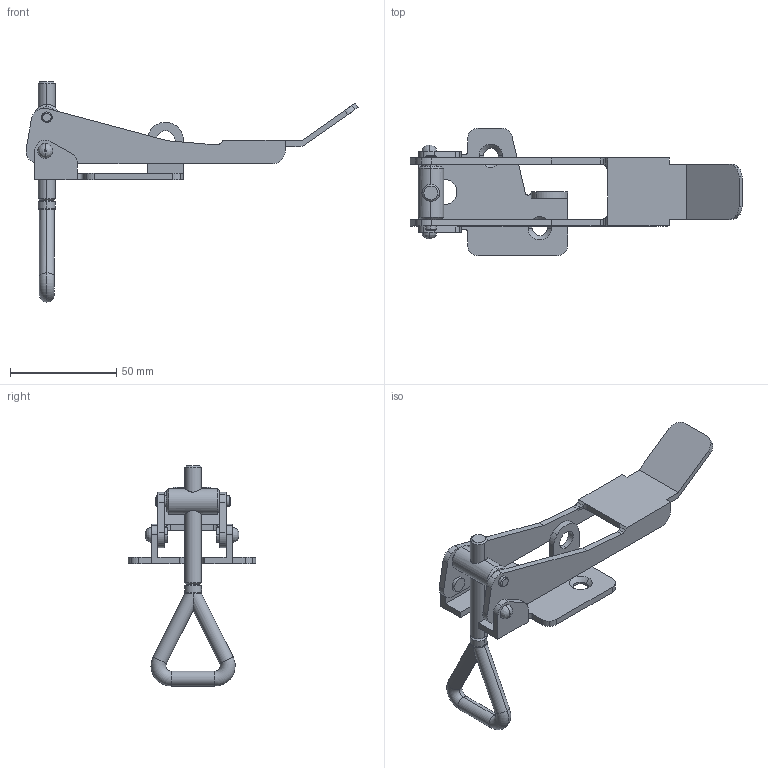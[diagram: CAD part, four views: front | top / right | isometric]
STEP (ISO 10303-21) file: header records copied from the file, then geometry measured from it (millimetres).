
FILE_DESCRIPTION((''),'2;1');
FILE_NAME('3480 -90°.stp','2010-11-08T09:46:39',(''),(''),'Mechanical Desktop 2006','Mechanical Desktop 2006',', , ');
FILE_SCHEMA(('CONFIG_CONTROL_DESIGN'));
Length unit declared in the file: millimetre
Products named in the file (6): 3480 -90ｰ; GRUNDPL 5; B軶E  L96; GRIF 1; TEIL3; BOL M8 123-3
Assembly tree (6 placements, depth 2):
  3480 -90ｰ
    GRUNDPL 5
    B軶E  L96
    GRIF 1
    TEIL3  x2
    BOL M8 123-3
Bounding box: 156.06 x 60 x 103.5 mm (x, y, z)
Volume: 36105.8 mm3; surface area: 26828.5 mm2
Topology: 6 solids, 6 shells, 184 faces, 472 edges, 303 vertices
Faces by surface type: cylinder 93, plane 61, cone 20, bspline 6, torus 4
Entity records: 6207 total; most frequent: CARTESIAN_POINT 1593, DIRECTION 995, ORIENTED_EDGE 904, EDGE_CURVE 452, AXIS2_PLACEMENT_3D 382, VERTEX_POINT 289, VECTOR 231, LINE 231
